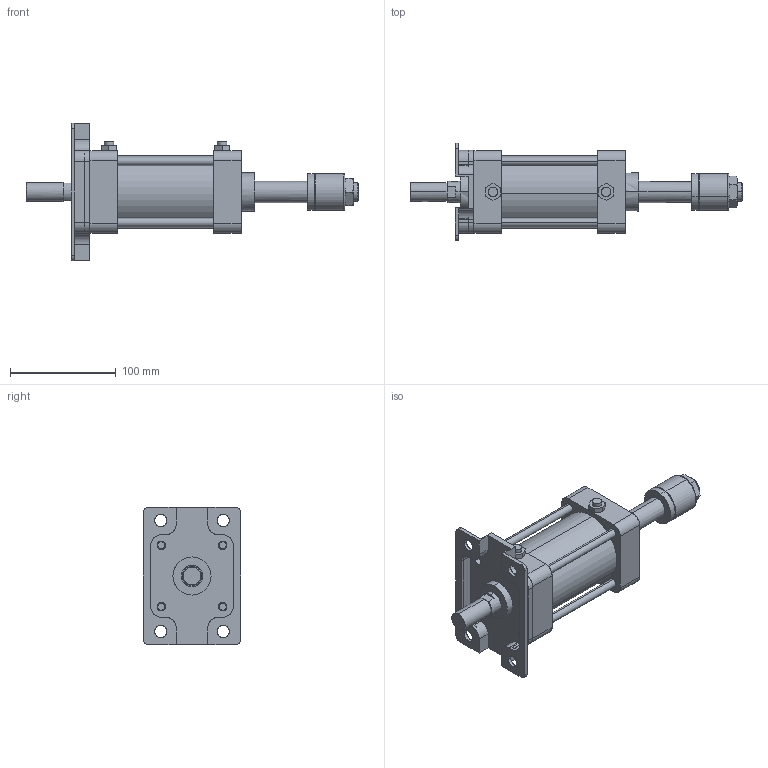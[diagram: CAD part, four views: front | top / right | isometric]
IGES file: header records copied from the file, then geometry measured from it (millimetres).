
Start section: SolidWorks IGES file using analytic representation for surfaces
Global section: file name: C:\Users\Toshiba\Desktop\KGA7-63#-50-A.IGS; native system: SolidWorks 2014; preprocessor: SolidWorks 2014; author: Toshiba; date: 160414.155111; units: millimetre
Bounding box: 314 x 92 x 130 mm (x, y, z)
Surface area: 167897 mm2 (no closed solid volume)
Topology: 0 solids, 0 shells, 437 faces, 7334 edges, 7330 vertices
Faces by surface type: bspline 235, revolution 202
